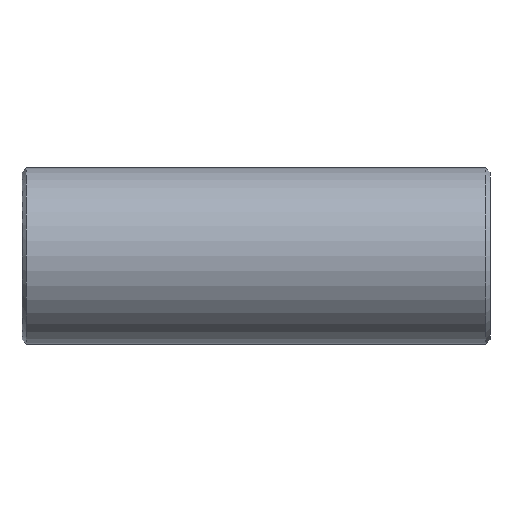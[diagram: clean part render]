
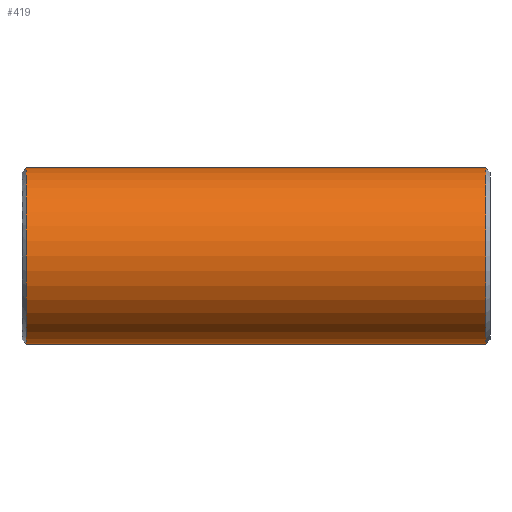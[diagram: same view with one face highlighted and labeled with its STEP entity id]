
A CAD part, front view. The second image highlights one B-rep face of the part: STEP entity #419.
In plain terms, the highlighted cylindrical face has radius 20 mm (diameter 40 mm), a partial arc.
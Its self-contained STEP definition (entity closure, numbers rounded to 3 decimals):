
#231=CARTESIAN_POINT('Vertex',(1.,0.,-20.)) ;
#238=CARTESIAN_POINT('Vertex',(1.,0.,20.)) ;
#267=CARTESIAN_POINT('Axis2P3D Location',(1.,0.,0.)) ;
#271=CARTESIAN_POINT('Vertex',(1.,-20.,0.)) ;
#274=CARTESIAN_POINT('Axis2P3D Location',(1.,0.,0.)) ;
#359=CARTESIAN_POINT('Line Origine',(106.,0.,20.)) ;
#363=CARTESIAN_POINT('Vertex',(105.,0.,20.)) ;
#377=CARTESIAN_POINT('Vertex',(105.,0.,-20.)) ;
#380=CARTESIAN_POINT('Line Origine',(106.,0.,-20.)) ;
#394=CARTESIAN_POINT('Axis2P3D Location',(106.,0.,0.)) ;
#399=CARTESIAN_POINT('Axis2P3D Location',(105.,0.,0.)) ;
#403=CARTESIAN_POINT('Vertex',(105.,-20.,0.)) ;
#406=CARTESIAN_POINT('Axis2P3D Location',(105.,0.,0.)) ;
#268=DIRECTION('Axis2P3D Direction',(1.,0.,-0.)) ;
#275=DIRECTION('Axis2P3D Direction',(1.,0.,-0.)) ;
#360=DIRECTION('Vector Direction',(-1.,0.,0.)) ;
#381=DIRECTION('Vector Direction',(-1.,0.,0.)) ;
#395=DIRECTION('Axis2P3D Direction',(-1.,-0.,-0.)) ;
#396=DIRECTION('Axis2P3D XDirection',(0.,0.,-1.)) ;
#400=DIRECTION('Axis2P3D Direction',(-1.,-0.,-0.)) ;
#407=DIRECTION('Axis2P3D Direction',(-1.,-0.,-0.)) ;
#269=AXIS2_PLACEMENT_3D('Circle Axis2P3D',#267,#268,$) ;
#276=AXIS2_PLACEMENT_3D('Circle Axis2P3D',#274,#275,$) ;
#397=AXIS2_PLACEMENT_3D('Cylinder Axis2P3D',#394,#395,#396) ;
#401=AXIS2_PLACEMENT_3D('Circle Axis2P3D',#399,#400,$) ;
#408=AXIS2_PLACEMENT_3D('Circle Axis2P3D',#406,#407,$) ;
#412=ORIENTED_EDGE('',*,*,#384,.T.) ;
#413=ORIENTED_EDGE('',*,*,#405,.F.) ;
#414=ORIENTED_EDGE('',*,*,#410,.F.) ;
#415=ORIENTED_EDGE('',*,*,#365,.T.) ;
#416=ORIENTED_EDGE('',*,*,#278,.T.) ;
#417=ORIENTED_EDGE('',*,*,#273,.T.) ;
#361=VECTOR('Line Direction',#360,1.) ;
#382=VECTOR('Line Direction',#381,1.) ;
#419=ADVANCED_FACE('352-32X106',(#418),#398,.T.) ;
#270=CIRCLE('generated circle',#269,20.) ;
#277=CIRCLE('generated circle',#276,20.) ;
#402=CIRCLE('generated circle',#401,20.) ;
#409=CIRCLE('generated circle',#408,20.) ;
#398=CYLINDRICAL_SURFACE('generated cylinder',#397,20.) ;
#273=EDGE_CURVE('',#272,#232,#270,.T.) ;
#278=EDGE_CURVE('',#239,#272,#277,.T.) ;
#365=EDGE_CURVE('',#364,#239,#362,.T.) ;
#384=EDGE_CURVE('',#232,#378,#383,.F.) ;
#405=EDGE_CURVE('',#404,#378,#402,.F.) ;
#410=EDGE_CURVE('',#364,#404,#409,.F.) ;
#411=EDGE_LOOP('',(#412,#413,#414,#415,#416,#417)) ;
#418=FACE_OUTER_BOUND('',#411,.T.) ;
#362=LINE('Line',#359,#361) ;
#383=LINE('Line',#380,#382) ;
#232=VERTEX_POINT('',#231) ;
#239=VERTEX_POINT('',#238) ;
#272=VERTEX_POINT('',#271) ;
#364=VERTEX_POINT('',#363) ;
#378=VERTEX_POINT('',#377) ;
#404=VERTEX_POINT('',#403) ;
